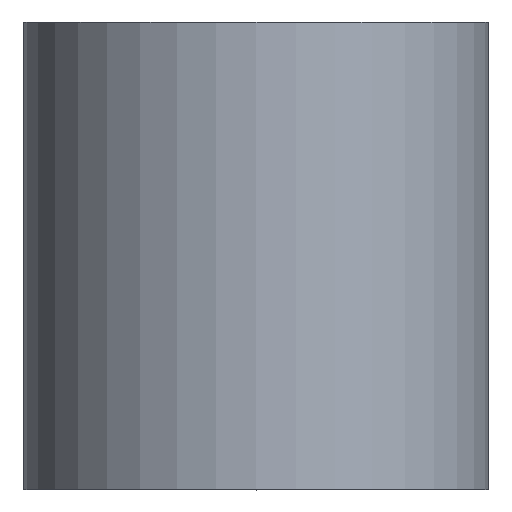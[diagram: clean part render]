
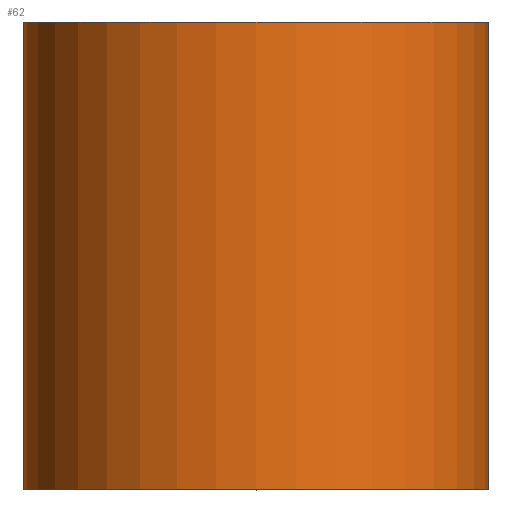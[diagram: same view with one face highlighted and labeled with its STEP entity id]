
A CAD part, top view. The second image highlights one B-rep face of the part: STEP entity #62.
In plain terms, the highlighted cylindrical face has radius 25.4 mm (diameter 50.8 mm), a full revolution.
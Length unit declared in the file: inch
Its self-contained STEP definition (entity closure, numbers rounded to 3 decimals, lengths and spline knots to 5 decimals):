
#20=FACE_OUTER_BOUND('',#24,.T.);
#24=EDGE_LOOP('',(#51,#52,#53,#54));
#30=LINE('',#118,#32);
#32=VECTOR('',#100,1.);
#35=CIRCLE('',#83,1.);
#36=CIRCLE('',#84,1.);
#39=VERTEX_POINT('',#115);
#40=VERTEX_POINT('',#117);
#44=EDGE_CURVE('',#39,#39,#35,.T.);
#45=EDGE_CURVE('',#39,#40,#30,.T.);
#46=EDGE_CURVE('',#40,#40,#36,.T.);
#51=ORIENTED_EDGE('',*,*,#44,.F.);
#52=ORIENTED_EDGE('',*,*,#45,.T.);
#53=ORIENTED_EDGE('',*,*,#46,.T.);
#54=ORIENTED_EDGE('',*,*,#45,.F.);
#60=CYLINDRICAL_SURFACE('',#82,1.);
#62=ADVANCED_FACE('',(#20),#60,.T.);
#82=AXIS2_PLACEMENT_3D('',#114,#96,#97);
#83=AXIS2_PLACEMENT_3D('',#116,#98,#99);
#84=AXIS2_PLACEMENT_3D('',#119,#101,#102);
#96=DIRECTION('center_axis',(0.,1.,0.));
#97=DIRECTION('ref_axis',(1.,0.,0.));
#98=DIRECTION('center_axis',(0.,1.,0.));
#99=DIRECTION('ref_axis',(1.,0.,0.));
#100=DIRECTION('',(0.,-1.,0.));
#101=DIRECTION('center_axis',(0.,1.,0.));
#102=DIRECTION('ref_axis',(1.,0.,0.));
#114=CARTESIAN_POINT('Origin',(0.,0.,0.));
#115=CARTESIAN_POINT('',(-1.,2.01,0.));
#116=CARTESIAN_POINT('Origin',(0.,2.01,0.));
#117=CARTESIAN_POINT('',(-1.,0.,0.));
#118=CARTESIAN_POINT('',(-1.,0.,0.));
#119=CARTESIAN_POINT('Origin',(0.,0.,0.));
